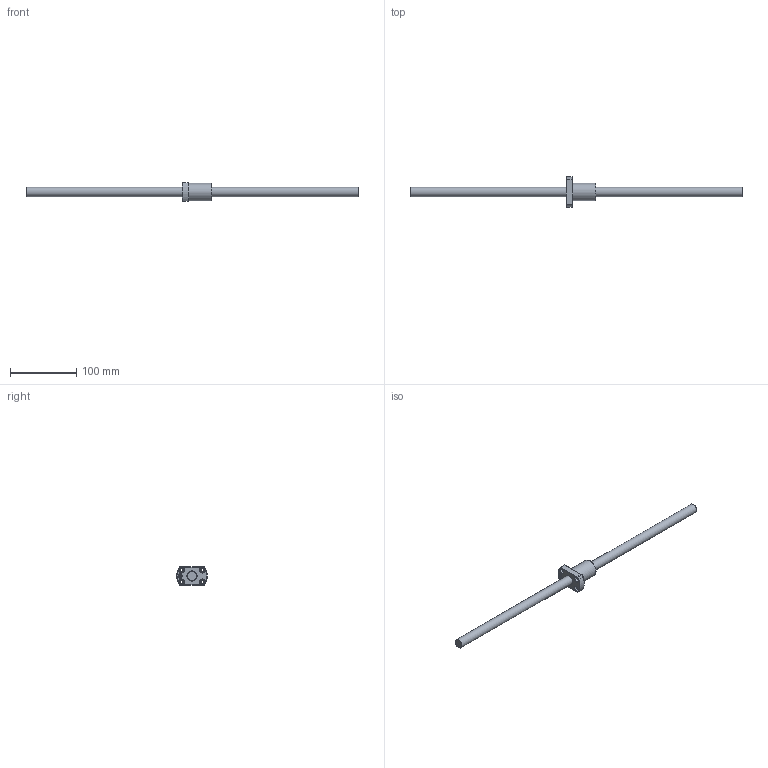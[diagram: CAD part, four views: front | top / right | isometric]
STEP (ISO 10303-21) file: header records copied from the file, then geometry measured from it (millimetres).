
FILE_DESCRIPTION (( 'STEP AP203' ), '1' );
FILE_NAME ('XSK01404.STEP', '2024-05-30T09:03:09', ( '' ), ( '' ), 'SwSTEP 2.0', 'SolidWorks 2022', '' );
FILE_SCHEMA (( 'CONFIG_CONTROL_DESIGN' ));
Length unit declared in the file: millimetre
Products named in the file (1): XSK01404
Bounding box: 500 x 46 x 28 mm (x, y, z)
Volume: 97656.5 mm3; surface area: 31440.7 mm2
Topology: 2 solids, 2 shells, 78 faces, 187 edges, 117 vertices
Faces by surface type: plane 23, cylinder 21, bspline 19, cone 10, torus 5
Full cylindrical faces by diameter (mm): 3 x1, 4 x3, 4.5 x4, 8 x4, 14 x1, 15.4 x1, 26 x1
Entity records: 6295 total; most frequent: CARTESIAN_POINT 4775, ORIENTED_EDGE 296, DIRECTION 250, EDGE_CURVE 148, EDGE_LOOP 121, AXIS2_PLACEMENT_3D 115, VERTEX_POINT 105, FACE_OUTER_BOUND 95
